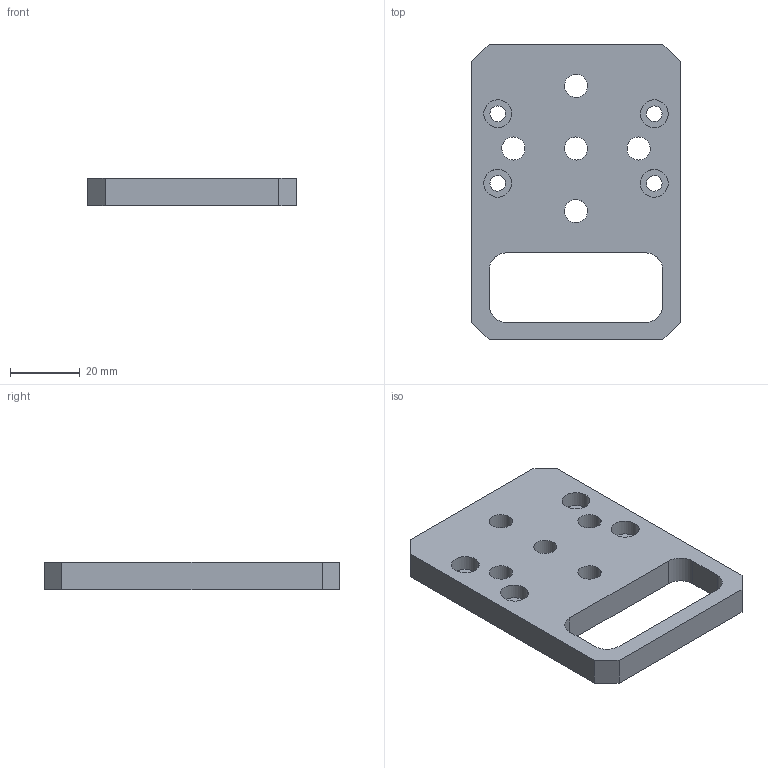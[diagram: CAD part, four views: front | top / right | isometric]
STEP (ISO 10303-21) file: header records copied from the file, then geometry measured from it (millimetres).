
FILE_DESCRIPTION(('CATIA V5 STEP Exchange'),'2;1');
FILE_NAME('D:\姚明阳\1、工装图纸\VDC压堵盖\工装数模和图纸\AGZ133.02_V1.stp','2025-04-25T01:53:30+00:00',('none'),('none'),'CATIA Version 5 Release 21 GA (IN-10)','CATIA V5 STEP AP214','none');
FILE_SCHEMA(('AUTOMOTIVE_DESIGN { 1 0 10303 214 1 1 1 1 }'));
Length unit declared in the file: millimetre
Products named in the file (1): AGZ133.02_V1
Bounding box: 60 x 85 x 8 mm (x, y, z)
Volume: 30056.2 mm3; surface area: 12431.9 mm2
Topology: 1 solids, 1 shells, 48 faces, 126 edges, 84 vertices
Faces by surface type: cylinder 30, plane 18
Entity records: 1432 total; most frequent: ORIENTED_EDGE 252, CARTESIAN_POINT 243, DIRECTION 190, EDGE_CURVE 126, AXIS2_PLACEMENT_3D 93, VERTEX_POINT 84, EDGE_LOOP 72, VECTOR 66
